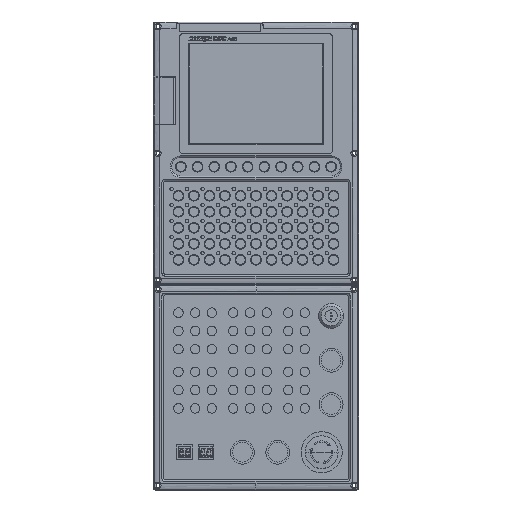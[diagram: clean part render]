
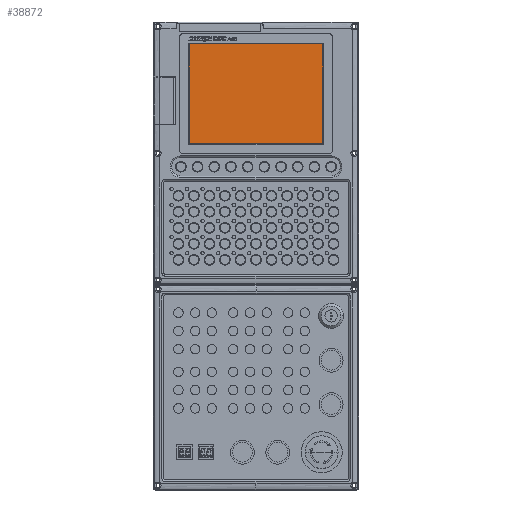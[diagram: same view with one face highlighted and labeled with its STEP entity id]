
A CAD part, top view. The second image highlights one B-rep face of the part: STEP entity #38872.
In plain terms, the highlighted planar face has unit normal (0, 0, 1).
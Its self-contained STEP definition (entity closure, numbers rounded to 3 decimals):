
#981 = VECTOR ( 'NONE', #20739, 1000. ) ;
#3216 = EDGE_CURVE ( 'NONE', #55294, #63286, #124528, .T. ) ;
#5464 = CARTESIAN_POINT ( 'NONE',  ( 81., -60.75, 0. ) ) ;
#9736 = CARTESIAN_POINT ( 'NONE',  ( 81., 60.75, 0. ) ) ;
#17821 = DIRECTION ( 'NONE',  ( 0., 1., 0. ) ) ;
#20739 = DIRECTION ( 'NONE',  ( -1., 0., 0. ) ) ;
#21258 = DIRECTION ( 'NONE',  ( 1., 0., 0. ) ) ;
#21698 = CARTESIAN_POINT ( 'NONE',  ( -81., -60.75, 0. ) ) ;
#26066 = VECTOR ( 'NONE', #125222, 1000. ) ;
#26774 = ORIENTED_EDGE ( 'NONE', *, *, #3216, .F. ) ;
#27517 = EDGE_CURVE ( 'NONE', #38779, #55294, #76271, .T. ) ;
#34285 = EDGE_CURVE ( 'NONE', #97071, #38779, #100785, .T. ) ;
#37852 = VECTOR ( 'NONE', #17821, 1000. ) ;
#38779 = VERTEX_POINT ( 'NONE', #9736 ) ;
#38872 = ADVANCED_FACE ( 'NONE', ( #57057 ), #69804, .T. ) ;
#47245 = CARTESIAN_POINT ( 'NONE',  ( -81., 68.25, 0. ) ) ;
#47811 = DIRECTION ( 'NONE',  ( 0., -1., 0. ) ) ;
#50243 = CARTESIAN_POINT ( 'NONE',  ( -88.5, 68.25, 0. ) ) ;
#55294 = VERTEX_POINT ( 'NONE', #5464 ) ;
#57057 = FACE_OUTER_BOUND ( 'NONE', #119314, .T. ) ;
#57084 = CARTESIAN_POINT ( 'NONE',  ( -88.5, 60.75, 0. ) ) ;
#63286 = VERTEX_POINT ( 'NONE', #21698 ) ;
#63770 = LINE ( 'NONE', #47245, #37852 ) ;
#66938 = CARTESIAN_POINT ( 'NONE',  ( 81., 68.25, 0. ) ) ;
#69804 = PLANE ( 'NONE',  #74214 ) ;
#74214 = AXIS2_PLACEMENT_3D ( 'NONE', #50243, #79602, #21258 ) ;
#76271 = LINE ( 'NONE', #66938, #125052 ) ;
#79602 = DIRECTION ( 'NONE',  ( 0., 0., 1. ) ) ;
#79699 = ORIENTED_EDGE ( 'NONE', *, *, #27517, .F. ) ;
#97071 = VERTEX_POINT ( 'NONE', #124924 ) ;
#97599 = ORIENTED_EDGE ( 'NONE', *, *, #110392, .F. ) ;
#100785 = LINE ( 'NONE', #57084, #26066 ) ;
#103100 = ORIENTED_EDGE ( 'NONE', *, *, #34285, .F. ) ;
#108524 = CARTESIAN_POINT ( 'NONE',  ( -88.5, -60.75, 0. ) ) ;
#110392 = EDGE_CURVE ( 'NONE', #63286, #97071, #63770, .T. ) ;
#119314 = EDGE_LOOP ( 'NONE', ( #97599, #26774, #79699, #103100 ) ) ;
#124528 = LINE ( 'NONE', #108524, #981 ) ;
#124924 = CARTESIAN_POINT ( 'NONE',  ( -81., 60.75, 0. ) ) ;
#125052 = VECTOR ( 'NONE', #47811, 1000. ) ;
#125222 = DIRECTION ( 'NONE',  ( 1., 0., 0. ) ) ;
